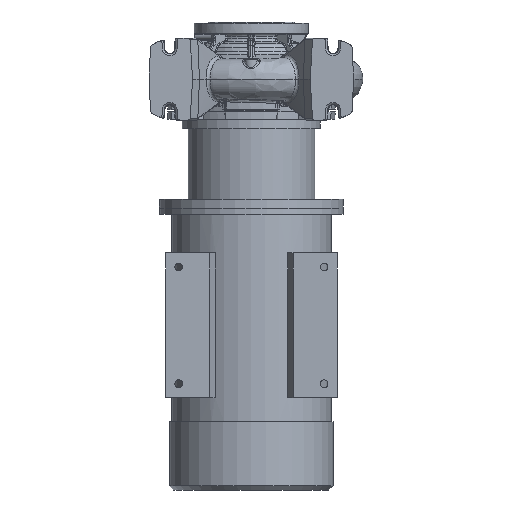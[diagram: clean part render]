
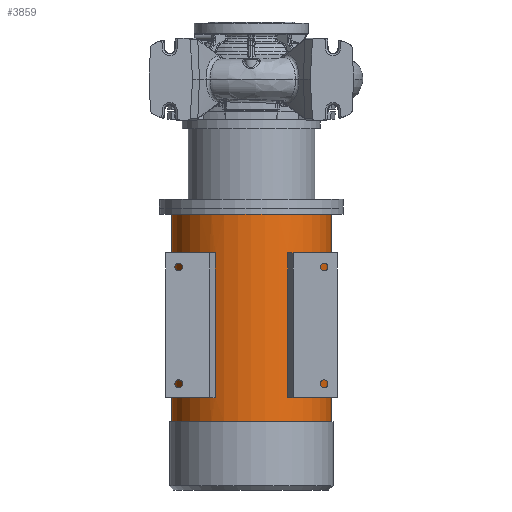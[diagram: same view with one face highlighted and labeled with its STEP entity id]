
A CAD part, front view. The second image highlights one B-rep face of the part: STEP entity #3859.
In plain terms, the highlighted cylindrical face has radius 195 mm (diameter 390 mm), a partial arc.
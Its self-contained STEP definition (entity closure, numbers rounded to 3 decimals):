
#928 = ORIENTED_EDGE ( 'NONE', *, *, #25732, .T. ) ;
#3859 = ADVANCED_FACE ( 'NONE', ( #29793, #83748, #34104 ), #38450, .T. ) ;
#4670 = CARTESIAN_POINT ( 'NONE',  ( 0., 0., -425.3 ) ) ;
#6808 = DIRECTION ( 'NONE',  ( -1., 0., 0. ) ) ;
#6937 = CARTESIAN_POINT ( 'NONE',  ( 195., 0., -330.8 ) ) ;
#7458 = CARTESIAN_POINT ( 'NONE',  ( -102.509, -165.882, -425.3 ) ) ;
#8171 = VECTOR ( 'NONE', #131695, 1000. ) ;
#9103 = CIRCLE ( 'NONE', #173787, 195. ) ;
#10942 = VERTEX_POINT ( 'NONE', #122430 ) ;
#13993 = CARTESIAN_POINT ( 'NONE',  ( -88.564, -173.728, -1005.8 ) ) ;
#14700 = CARTESIAN_POINT ( 'NONE',  ( 0., 0., -780.3 ) ) ;
#14768 = VERTEX_POINT ( 'NONE', #155752 ) ;
#16845 = LINE ( 'NONE', #64856, #8171 ) ;
#17012 = DIRECTION ( 'NONE',  ( 0., 0., 1. ) ) ;
#17050 = CIRCLE ( 'NONE', #19294, 195. ) ;
#17665 = CARTESIAN_POINT ( 'NONE',  ( 102.509, -165.882, -780.3 ) ) ;
#17764 = LINE ( 'NONE', #13993, #86697 ) ;
#18504 = LINE ( 'NONE', #91442, #158590 ) ;
#18518 = DIRECTION ( 'NONE',  ( -1., 0., 0. ) ) ;
#19294 = AXIS2_PLACEMENT_3D ( 'NONE', #4670, #31716, #18518 ) ;
#20314 = EDGE_CURVE ( 'NONE', #22378, #10942, #17050, .T. ) ;
#21285 = ORIENTED_EDGE ( 'NONE', *, *, #154900, .F. ) ;
#21635 = DIRECTION ( 'NONE',  ( 0., 0., -1. ) ) ;
#22378 = VERTEX_POINT ( 'NONE', #54173 ) ;
#23534 = VERTEX_POINT ( 'NONE', #7458 ) ;
#25732 = EDGE_CURVE ( 'NONE', #95091, #113440, #41630, .T. ) ;
#26887 = ORIENTED_EDGE ( 'NONE', *, *, #20314, .T. ) ;
#28392 = DIRECTION ( 'NONE',  ( 0., 0., -1. ) ) ;
#29555 = CARTESIAN_POINT ( 'NONE',  ( 0., 0., -330.8 ) ) ;
#29793 = FACE_OUTER_BOUND ( 'NONE', #120846, .T. ) ;
#31716 = DIRECTION ( 'NONE',  ( 0., 0., 1. ) ) ;
#33801 = AXIS2_PLACEMENT_3D ( 'NONE', #29555, #28392, #127055 ) ;
#34104 = FACE_BOUND ( 'NONE', #175052, .T. ) ;
#34477 = CARTESIAN_POINT ( 'NONE',  ( 0., 0., -780.3 ) ) ;
#34775 = LINE ( 'NONE', #61117, #136098 ) ;
#35678 = CARTESIAN_POINT ( 'NONE',  ( -88.564, -173.728, -425.3 ) ) ;
#38450 = CYLINDRICAL_SURFACE ( 'NONE', #126220, 195. ) ;
#41630 = CIRCLE ( 'NONE', #33801, 195. ) ;
#43271 = EDGE_CURVE ( 'NONE', #142914, #47559, #9103, .T. ) ;
#43513 = EDGE_CURVE ( 'NONE', #10942, #47559, #69452, .T. ) ;
#44057 = ORIENTED_EDGE ( 'NONE', *, *, #72927, .T. ) ;
#45310 = CARTESIAN_POINT ( 'NONE',  ( 102.509, -165.882, -1005.8 ) ) ;
#46464 = CARTESIAN_POINT ( 'NONE',  ( -102.509, -165.882, -780.3 ) ) ;
#47559 = VERTEX_POINT ( 'NONE', #17665 ) ;
#48729 = ORIENTED_EDGE ( 'NONE', *, *, #126065, .F. ) ;
#49854 = CARTESIAN_POINT ( 'NONE',  ( 195., 0., -838.8 ) ) ;
#54173 = CARTESIAN_POINT ( 'NONE',  ( 88.564, -173.728, -425.3 ) ) ;
#54390 = EDGE_CURVE ( 'NONE', #23534, #82654, #90428, .T. ) ;
#56268 = DIRECTION ( 'NONE',  ( 0., 0., 1. ) ) ;
#56417 = EDGE_LOOP ( 'NONE', ( #106280, #21285, #108776, #168768 ) ) ;
#59186 = DIRECTION ( 'NONE',  ( 0., 0., -1. ) ) ;
#61117 = CARTESIAN_POINT ( 'NONE',  ( -195., 0., -1005.8 ) ) ;
#64856 = CARTESIAN_POINT ( 'NONE',  ( 195., 0., -1005.8 ) ) ;
#67758 = CARTESIAN_POINT ( 'NONE',  ( 88.564, -173.728, -1005.8 ) ) ;
#69452 = LINE ( 'NONE', #45310, #172685 ) ;
#72927 = EDGE_CURVE ( 'NONE', #142914, #22378, #151777, .T. ) ;
#82654 = VERTEX_POINT ( 'NONE', #35678 ) ;
#83748 = FACE_BOUND ( 'NONE', #56417, .T. ) ;
#83776 = ORIENTED_EDGE ( 'NONE', *, *, #155614, .F. ) ;
#84473 = CARTESIAN_POINT ( 'NONE',  ( 0., 0., -425.3 ) ) ;
#86697 = VECTOR ( 'NONE', #124778, 1000. ) ;
#90428 = CIRCLE ( 'NONE', #142460, 195. ) ;
#90930 = DIRECTION ( 'NONE',  ( -1., 0., 0. ) ) ;
#91442 = CARTESIAN_POINT ( 'NONE',  ( -102.509, -165.882, -1005.8 ) ) ;
#92203 = AXIS2_PLACEMENT_3D ( 'NONE', #34477, #103684, #6808 ) ;
#93551 = EDGE_CURVE ( 'NONE', #23534, #176474, #18504, .T. ) ;
#95091 = VERTEX_POINT ( 'NONE', #6937 ) ;
#96057 = EDGE_CURVE ( 'NONE', #14768, #82654, #17764, .T. ) ;
#98159 = DIRECTION ( 'NONE',  ( -1., 0., 0. ) ) ;
#103684 = DIRECTION ( 'NONE',  ( 0., 0., 1. ) ) ;
#106280 = ORIENTED_EDGE ( 'NONE', *, *, #96057, .F. ) ;
#108776 = ORIENTED_EDGE ( 'NONE', *, *, #93551, .F. ) ;
#111784 = VERTEX_POINT ( 'NONE', #49854 ) ;
#113440 = VERTEX_POINT ( 'NONE', #164184 ) ;
#119895 = DIRECTION ( 'NONE',  ( 0., 0., -1. ) ) ;
#120846 = EDGE_LOOP ( 'NONE', ( #48729, #928, #149778, #83776 ) ) ;
#122430 = CARTESIAN_POINT ( 'NONE',  ( 102.509, -165.882, -425.3 ) ) ;
#123566 = CARTESIAN_POINT ( 'NONE',  ( 0., 0., -838.8 ) ) ;
#123640 = EDGE_CURVE ( 'NONE', #113440, #175589, #34775, .T. ) ;
#124778 = DIRECTION ( 'NONE',  ( 0., 0., 1. ) ) ;
#126065 = EDGE_CURVE ( 'NONE', #95091, #111784, #16845, .T. ) ;
#126220 = AXIS2_PLACEMENT_3D ( 'NONE', #133725, #119895, #90930 ) ;
#127055 = DIRECTION ( 'NONE',  ( -1., 0., 0. ) ) ;
#127210 = ORIENTED_EDGE ( 'NONE', *, *, #43271, .F. ) ;
#131695 = DIRECTION ( 'NONE',  ( 0., 0., -1. ) ) ;
#133725 = CARTESIAN_POINT ( 'NONE',  ( 0., 0., -1005.8 ) ) ;
#136098 = VECTOR ( 'NONE', #171257, 1000. ) ;
#137472 = AXIS2_PLACEMENT_3D ( 'NONE', #123566, #153586, #98159 ) ;
#138807 = VECTOR ( 'NONE', #152620, 1000. ) ;
#142460 = AXIS2_PLACEMENT_3D ( 'NONE', #84473, #17012, #143682 ) ;
#142914 = VERTEX_POINT ( 'NONE', #168900 ) ;
#143682 = DIRECTION ( 'NONE',  ( -1., 0., 0. ) ) ;
#149778 = ORIENTED_EDGE ( 'NONE', *, *, #123640, .T. ) ;
#151777 = LINE ( 'NONE', #67758, #138807 ) ;
#152588 = DIRECTION ( 'NONE',  ( -1., 0., 0. ) ) ;
#152620 = DIRECTION ( 'NONE',  ( 0., 0., 1. ) ) ;
#152785 = ORIENTED_EDGE ( 'NONE', *, *, #43513, .T. ) ;
#153586 = DIRECTION ( 'NONE',  ( 0., 0., -1. ) ) ;
#154900 = EDGE_CURVE ( 'NONE', #176474, #14768, #170846, .T. ) ;
#155614 = EDGE_CURVE ( 'NONE', #111784, #175589, #177320, .T. ) ;
#155752 = CARTESIAN_POINT ( 'NONE',  ( -88.564, -173.728, -780.3 ) ) ;
#158590 = VECTOR ( 'NONE', #21635, 1000. ) ;
#164184 = CARTESIAN_POINT ( 'NONE',  ( -195., 0., -330.8 ) ) ;
#167756 = CARTESIAN_POINT ( 'NONE',  ( -195., 0., -838.8 ) ) ;
#168768 = ORIENTED_EDGE ( 'NONE', *, *, #54390, .T. ) ;
#168900 = CARTESIAN_POINT ( 'NONE',  ( 88.564, -173.728, -780.3 ) ) ;
#170846 = CIRCLE ( 'NONE', #92203, 195. ) ;
#171257 = DIRECTION ( 'NONE',  ( 0., 0., -1. ) ) ;
#172685 = VECTOR ( 'NONE', #59186, 1000. ) ;
#173787 = AXIS2_PLACEMENT_3D ( 'NONE', #14700, #56268, #152588 ) ;
#175052 = EDGE_LOOP ( 'NONE', ( #44057, #26887, #152785, #127210 ) ) ;
#175589 = VERTEX_POINT ( 'NONE', #167756 ) ;
#176474 = VERTEX_POINT ( 'NONE', #46464 ) ;
#177320 = CIRCLE ( 'NONE', #137472, 195. ) ;
